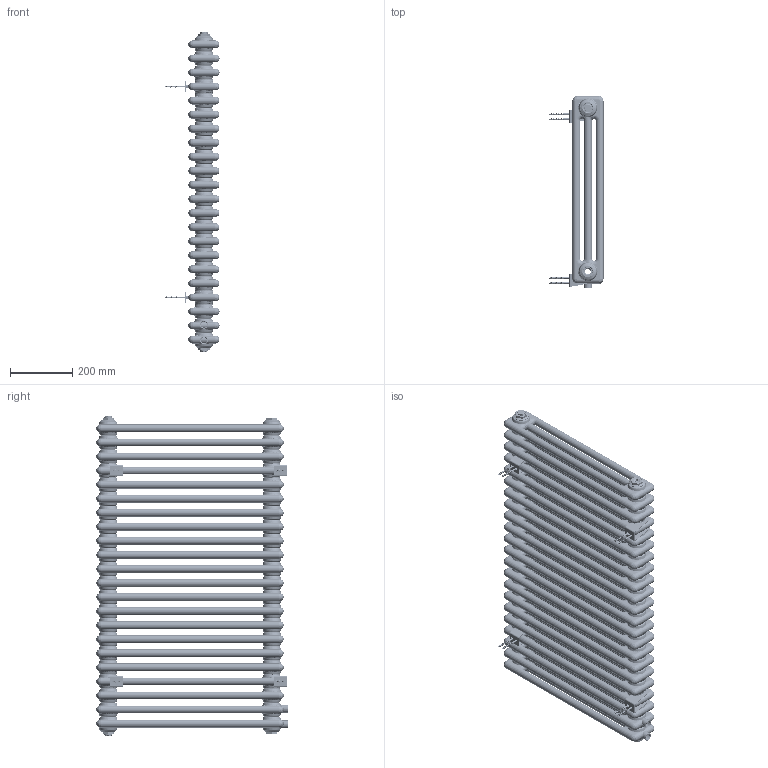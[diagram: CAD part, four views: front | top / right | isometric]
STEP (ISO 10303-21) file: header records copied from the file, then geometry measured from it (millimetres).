
FILE_DESCRIPTION(/* description */ (''),/* implementation_level */ '2;1');
FILE_NAME(/* name */ 'CL03 600x1010',/* time_stamp */ '2023-09-10T13:29:43+08:00',/* author */ (''),/* organization */ (''),/* preprocessor_version */ 'ST-DEVELOPER v9',/* originating_system */ 'UGS - NX 4.0',/* authorisation */ '');
FILE_SCHEMA (('CONFIG_CONTROL_DESIGN'));
Length unit declared in the file: millimetre
Products named in the file (1): Admi177Fr7yq
Bounding box: 176.1 x 613 x 1024 mm (x, y, z)
Volume: 3927746.7 mm3; surface area: 6427068 mm2
Topology: 44 solids, 44 shells, 6891 faces, 16477 edges, 9557 vertices
Faces by surface type: bspline 2155, cylinder 1553, torus 1308, plane 1272, cone 603
Full cylindrical faces by diameter (mm): 25 x2
Entity records: 413109 total; most frequent: CARTESIAN_POINT 268567, ORIENTED_EDGE 32922, DIRECTION 26975, EDGE_CURVE 16461, AXIS2_PLACEMENT_3D 11713, VERTEX_POINT 9559, EDGE_LOOP 7140, CIRCLE 6976
